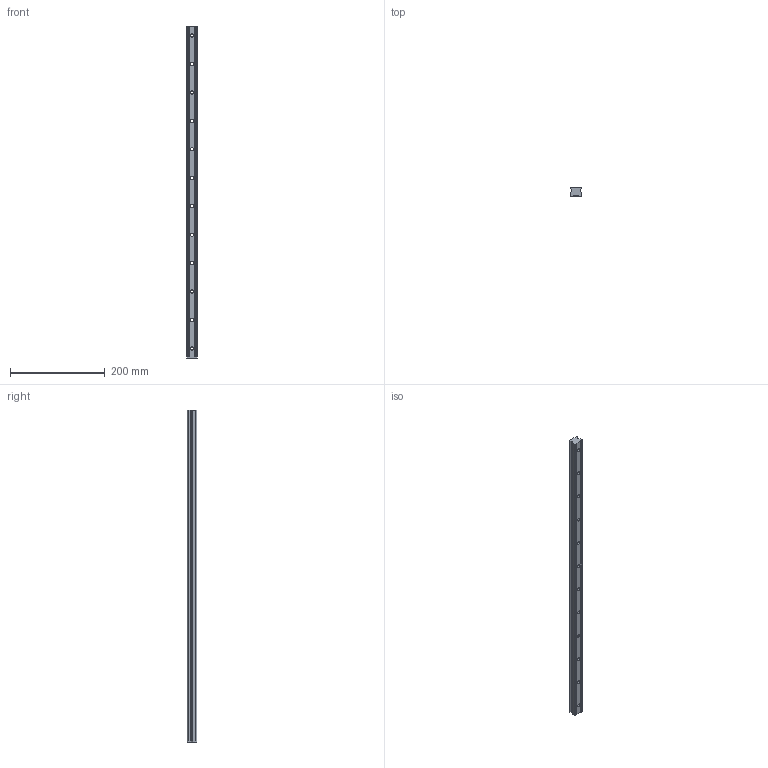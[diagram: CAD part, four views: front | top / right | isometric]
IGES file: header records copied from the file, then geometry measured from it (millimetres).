
Start section: SolidWorks IGES file using analytic representation for surfaces
Global section: file name: C:\Users\IanO\Desktop\L1016_v2\L1016.BL25_v2\L1016.BL25_v2_20160611_IGES\L1016.BL25-0700.igs; native system: SolidWorks 2017; preprocessor: SolidWorks 2017; author: IanO; date: 190612.130536; units: millimetre
Bounding box: 23 x 19.2 x 700 mm (x, y, z)
Surface area: 66934.5 mm2 (no closed solid volume)
Topology: 0 solids, 0 shells, 86 faces, 1896 edges, 1896 vertices
Faces by surface type: revolution 52, bspline 34
